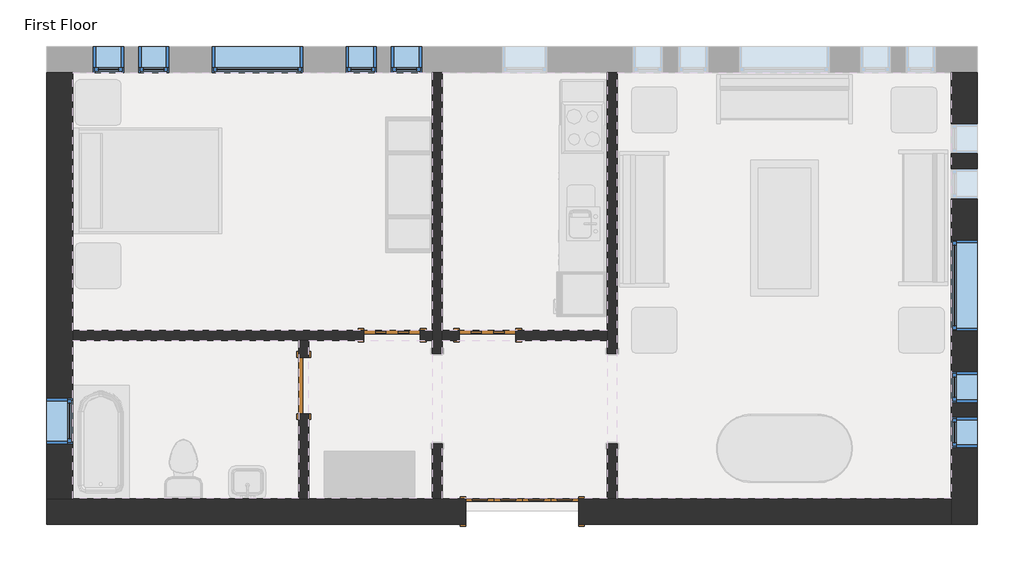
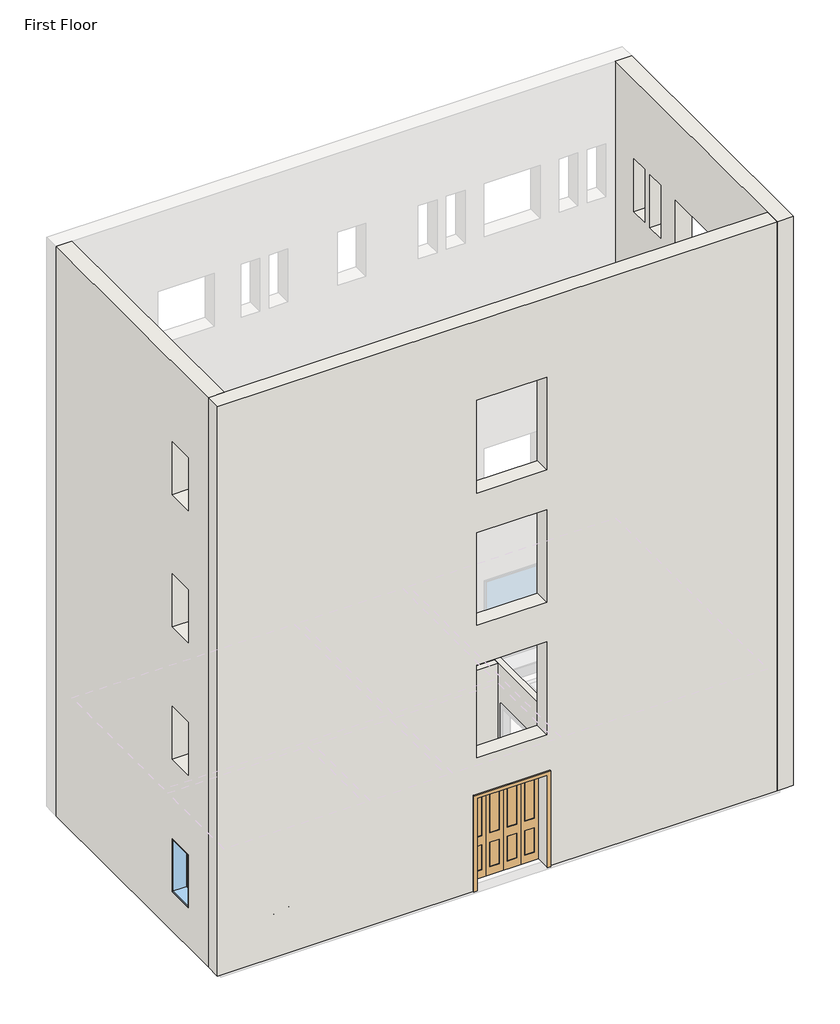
# One storey, part 1 of 2: 9 windows, 7 walls, 4 doors.
"""IFC4 building model written with IfcOpenShell, lengths in millimetres."""

from ifc_helpers import new_model, si_unit, frame, origin, place, context, project, spatial, polyline, outline, extrude, faceted_brep, transform, mapped, element, save
from components import m_bifold_4_panel_1525_x_2134mm_1ddae71f, m_single_decorative_2_0762_x_2134mm_0d0af7cb, m_single_decorative_2_0762_x_2134mm_2fe67c8e, m_single_flush_0762_x_2134mm_0d89e411, m_fixed_0406_x_1220mm_57fee329, m_fixed_0406_x_1220mm_85c28f40, m_fixed_0610_x_1220mm_2c28ef1d, m_fixed_1220_x_1220mm_e08ff7af

model = new_model("IFC4")

# Units and contexts
model_context = context("Model", 3, world=origin())
ifc_project = project(units=[si_unit("LENGTHUNIT", "METRE", prefix="MILLI")], contexts=[model_context])

# Site, building, storey
site = spatial("IfcSite", under=ifc_project)
building = spatial("IfcBuilding", under=site)
storey = spatial("IfcBuildingStorey", under=building, Name="First Floor", Elevation=0.0)

# Doors
placement = place(None, origin())
m_bifold_4_panel_1525_x_2134mm_shape = m_bifold_4_panel_1525_x_2134mm_1ddae71f(model_context)
element("IfcDoor", 1, ObjectType="M_Bifold-4 Panel : 1525 x 2134mm", at=placement, inside=storey, context=model_context, shape_type="MappedRepresentation", body=[
    mapped(m_bifold_4_panel_1525_x_2134mm_shape, transform((-8876.0916203, -3514.8811614, 0.0), x_axis=(1.0, 0.0, 0.0), y_axis=(0.0, 1.0, 0.0), z_axis=(0.0, 0.0, 1.0))),
])
m_single_decorative_2_0762_x_2134mm_shape = m_single_decorative_2_0762_x_2134mm_0d0af7cb(model_context)
element("IfcDoor", 2, ObjectType="M_Single-Decorative 2 : 0762 x 2134mm", at=placement, inside=storey, context=model_context, shape_type="MappedRepresentation", body=[
    mapped(m_single_decorative_2_0762_x_2134mm_shape, transform((-9342.3416203, -1138.1311614, 0.0), x_axis=(-1.0, 0.0, 0.0), y_axis=(0.0, -1.0, 0.0), z_axis=(0.0, 0.0, 1.0))),
])
m_single_decorative_2_0762_x_2134mm_2_shape = m_single_decorative_2_0762_x_2134mm_2fe67c8e(model_context)
element("IfcDoor", 3, ObjectType="M_Single-Decorative 2 : 0762 x 2134mm", at=placement, inside=storey, context=model_context, shape_type="MappedRepresentation", body=[
    mapped(m_single_decorative_2_0762_x_2134mm_2_shape, transform((-10629.0916203, -1138.1311614, 0.0), x_axis=(1.0, 0.0, 0.0), y_axis=(0.0, 1.0, 0.0), z_axis=(0.0, 0.0, 1.0))),
])
m_single_flush_0762_x_2134mm_shape = m_single_flush_0762_x_2134mm_0d89e411(model_context)
element("IfcDoor", 4, ObjectType="M_Single-Flush : 0762 x 2134mm", at=placement, inside=storey, context=model_context, shape_type="MappedRepresentation", body=[
    mapped(m_single_flush_0762_x_2134mm_shape, transform((-11819.5916203, -1815.8811614, 0.0), x_axis=(0.0, 1.0, 0.0), y_axis=(-1.0, 0.0, 0.0), z_axis=(0.0, 0.0, 1.0))),
])

# Walls
element("IfcWall", 5, ObjectType="Exterior - Brick on Mtl. Stud", at=placement, inside=storey, context=model_context, shape_type="Brep", body=[
    faceted_brep([(-3093.3416203, 2406.1188386, 0.0), (-3093.3416203, -3339.8811614, 0.0), (-3093.3416203, -3504.8811614, 0.0), (-3093.3416203, -3689.8811614, 0.0), (-3093.3416203, -3689.8811614, 13107.0), (-3093.3416203, -3339.8811614, 13107.0), (-3093.3416203, 2406.1188386, 13107.0), (-3093.3416203, -1076.8811614, 915.0), (-3093.3416203, 143.1188386, 915.0), (-3093.3416203, 143.1188386, 2135.0), (-3093.3416203, -1076.8811614, 2135.0), (-3093.3416203, 701.1188386, 915.0), (-3093.3416203, 1107.1188386, 915.0), (-3093.3416203, 1107.1188386, 2135.0), (-3093.3416203, 701.1188386, 2135.0), (-3093.3416203, 1311.1188386, 915.0), (-3093.3416203, 1717.1188386, 915.0), (-3093.3416203, 1717.1188386, 2135.0), (-3093.3416203, 1311.1188386, 2135.0), (-3093.3416203, -1634.8811614, 915.0), (-3093.3416203, -1634.8811614, 2135.0), (-3093.3416203, -2040.8811614, 2135.0), (-3093.3416203, -2040.8811614, 915.0), (-3093.3416203, -2244.8811614, 915.0), (-3093.3416203, -2244.8811614, 2135.0), (-3093.3416203, -2650.8811614, 2135.0), (-3093.3416203, -2650.8811614, 915.0), (-3093.3416203, -1634.8811614, 10059.0), (-3093.3416203, -1634.8811614, 11279.0), (-3093.3416203, -2040.8811614, 11279.0), (-3093.3416203, -2040.8811614, 10059.0), (-3093.3416203, -2244.8811614, 10059.0), (-3093.3416203, -2244.8811614, 11279.0), (-3093.3416203, -2650.8811614, 11279.0), (-3093.3416203, -2650.8811614, 10059.0), (-3093.3416203, 701.1188386, 10059.0), (-3093.3416203, 1107.1188386, 10059.0), (-3093.3416203, 1107.1188386, 11279.0), (-3093.3416203, 701.1188386, 11279.0), (-3093.3416203, 1311.1188386, 10059.0), (-3093.3416203, 1717.1188386, 10059.0), (-3093.3416203, 1717.1188386, 11279.0), (-3093.3416203, 1311.1188386, 11279.0), (-3093.3416203, -1076.8811614, 10059.0), (-3093.3416203, 143.1188386, 10059.0), (-3093.3416203, 143.1188386, 11279.0), (-3093.3416203, -1076.8811614, 11279.0), (-3093.3416203, -1634.8811614, 3963.0), (-3093.3416203, -1634.8811614, 5183.0), (-3093.3416203, -2040.8811614, 5183.0), (-3093.3416203, -2040.8811614, 3963.0), (-3093.3416203, -2244.8811614, 3963.0), (-3093.3416203, -2244.8811614, 5183.0), (-3093.3416203, -2650.8811614, 5183.0), (-3093.3416203, -2650.8811614, 3963.0), (-3093.3416203, 701.1188386, 3963.0), (-3093.3416203, 1107.1188386, 3963.0), (-3093.3416203, 1107.1188386, 5183.0), (-3093.3416203, 701.1188386, 5183.0), (-3093.3416203, 1311.1188386, 3963.0), (-3093.3416203, 1717.1188386, 3963.0), (-3093.3416203, 1717.1188386, 5183.0), (-3093.3416203, 1311.1188386, 5183.0), (-3093.3416203, -1076.8811614, 3963.0), (-3093.3416203, 143.1188386, 3963.0), (-3093.3416203, 143.1188386, 5183.0), (-3093.3416203, -1076.8811614, 5183.0), (-3093.3416203, -1634.8811614, 7011.0), (-3093.3416203, -1634.8811614, 8231.0), (-3093.3416203, -2040.8811614, 8231.0), (-3093.3416203, -2040.8811614, 7011.0), (-3093.3416203, -2244.8811614, 7011.0), (-3093.3416203, -2244.8811614, 8231.0), (-3093.3416203, -2650.8811614, 8231.0), (-3093.3416203, -2650.8811614, 7011.0), (-3093.3416203, 701.1188386, 7011.0), (-3093.3416203, 1107.1188386, 7011.0), (-3093.3416203, 1107.1188386, 8231.0), (-3093.3416203, 701.1188386, 8231.0), (-3093.3416203, 1311.1188386, 7011.0), (-3093.3416203, 1717.1188386, 7011.0), (-3093.3416203, 1717.1188386, 8231.0), (-3093.3416203, 1311.1188386, 8231.0), (-3093.3416203, -1076.8811614, 7011.0), (-3093.3416203, 143.1188386, 7011.0), (-3093.3416203, 143.1188386, 8231.0), (-3093.3416203, -1076.8811614, 8231.0), (-2743.3416203, 2406.1188386, 0.0), (-2743.3416203, 2406.1188386, 13107.0), (-2743.3416203, -3689.8811614, 13107.0), (-2743.3416203, -3689.8811614, 0.0), (-2743.3416203, -3504.8811614, 0.0), (-2743.3416203, -1076.8811614, 915.0), (-2743.3416203, -1076.8811614, 2135.0), (-2743.3416203, 143.1188386, 2135.0), (-2743.3416203, 143.1188386, 915.0), (-2743.3416203, 701.1188386, 915.0), (-2743.3416203, 701.1188386, 2135.0), (-2743.3416203, 1107.1188386, 2135.0), (-2743.3416203, 1107.1188386, 915.0), (-2743.3416203, 1311.1188386, 915.0), (-2743.3416203, 1311.1188386, 2135.0), (-2743.3416203, 1717.1188386, 2135.0), (-2743.3416203, 1717.1188386, 915.0), (-2743.3416203, -1634.8811614, 915.0), (-2743.3416203, -2040.8811614, 915.0), (-2743.3416203, -2040.8811614, 2135.0), (-2743.3416203, -1634.8811614, 2135.0), (-2743.3416203, -2244.8811614, 915.0), (-2743.3416203, -2650.8811614, 915.0), (-2743.3416203, -2650.8811614, 2135.0), (-2743.3416203, -2244.8811614, 2135.0), (-2743.3416203, -1634.8811614, 10059.0), (-2743.3416203, -2040.8811614, 10059.0), (-2743.3416203, -2040.8811614, 11279.0), (-2743.3416203, -1634.8811614, 11279.0), (-2743.3416203, -2244.8811614, 10059.0), (-2743.3416203, -2650.8811614, 10059.0), (-2743.3416203, -2650.8811614, 11279.0), (-2743.3416203, -2244.8811614, 11279.0), (-2743.3416203, 701.1188386, 10059.0), (-2743.3416203, 701.1188386, 11279.0), (-2743.3416203, 1107.1188386, 11279.0), (-2743.3416203, 1107.1188386, 10059.0), (-2743.3416203, 1311.1188386, 10059.0), (-2743.3416203, 1311.1188386, 11279.0), (-2743.3416203, 1717.1188386, 11279.0), (-2743.3416203, 1717.1188386, 10059.0), (-2743.3416203, -1076.8811614, 10059.0), (-2743.3416203, -1076.8811614, 11279.0), (-2743.3416203, 143.1188386, 11279.0), (-2743.3416203, 143.1188386, 10059.0), (-2743.3416203, -1634.8811614, 3963.0), (-2743.3416203, -2040.8811614, 3963.0), (-2743.3416203, -2040.8811614, 5183.0), (-2743.3416203, -1634.8811614, 5183.0), (-2743.3416203, -2244.8811614, 3963.0), (-2743.3416203, -2650.8811614, 3963.0), (-2743.3416203, -2650.8811614, 5183.0), (-2743.3416203, -2244.8811614, 5183.0), (-2743.3416203, 701.1188386, 3963.0), (-2743.3416203, 701.1188386, 5183.0), (-2743.3416203, 1107.1188386, 5183.0), (-2743.3416203, 1107.1188386, 3963.0), (-2743.3416203, 1311.1188386, 3963.0), (-2743.3416203, 1311.1188386, 5183.0), (-2743.3416203, 1717.1188386, 5183.0), (-2743.3416203, 1717.1188386, 3963.0), (-2743.3416203, -1076.8811614, 3963.0), (-2743.3416203, -1076.8811614, 5183.0), (-2743.3416203, 143.1188386, 5183.0), (-2743.3416203, 143.1188386, 3963.0), (-2743.3416203, -1634.8811614, 7011.0), (-2743.3416203, -2040.8811614, 7011.0), (-2743.3416203, -2040.8811614, 8231.0), (-2743.3416203, -1634.8811614, 8231.0), (-2743.3416203, -2244.8811614, 7011.0), (-2743.3416203, -2650.8811614, 7011.0), (-2743.3416203, -2650.8811614, 8231.0), (-2743.3416203, -2244.8811614, 8231.0), (-2743.3416203, 701.1188386, 7011.0), (-2743.3416203, 701.1188386, 8231.0), (-2743.3416203, 1107.1188386, 8231.0), (-2743.3416203, 1107.1188386, 7011.0), (-2743.3416203, 1311.1188386, 7011.0), (-2743.3416203, 1311.1188386, 8231.0), (-2743.3416203, 1717.1188386, 8231.0), (-2743.3416203, 1717.1188386, 7011.0), (-2743.3416203, -1076.8811614, 7011.0), (-2743.3416203, -1076.8811614, 8231.0), (-2743.3416203, 143.1188386, 8231.0), (-2743.3416203, 143.1188386, 7011.0), (-2928.3416203, 2406.1188386, 0.0), (-2928.3416203, -3689.8811614, 0.0), (-2928.3416203, -3504.8811614, 0.0)], [[[0, 1, 2, 3, 4, 5, 6], [7, 8, 9, 10], [11, 12, 13, 14], [15, 16, 17, 18], [19, 20, 21, 22], [23, 24, 25, 26], [27, 28, 29, 30], [31, 32, 33, 34], [35, 36, 37, 38], [39, 40, 41, 42], [43, 44, 45, 46], [47, 48, 49, 50], [51, 52, 53, 54], [55, 56, 57, 58], [59, 60, 61, 62], [63, 64, 65, 66], [67, 68, 69, 70], [71, 72, 73, 74], [75, 76, 77, 78], [79, 80, 81, 82], [83, 84, 85, 86]], [[87, 88, 89, 90, 91], [92, 93, 94, 95], [96, 97, 98, 99], [100, 101, 102, 103], [104, 105, 106, 107], [108, 109, 110, 111], [112, 113, 114, 115], [116, 117, 118, 119], [120, 121, 122, 123], [124, 125, 126, 127], [128, 129, 130, 131], [132, 133, 134, 135], [136, 137, 138, 139], [140, 141, 142, 143], [144, 145, 146, 147], [148, 149, 150, 151], [152, 153, 154, 155], [156, 157, 158, 159], [160, 161, 162, 163], [164, 165, 166, 167], [168, 169, 170, 171]], [[6, 5, 4, 89, 88]], [[0, 6, 88, 87, 172]], [[4, 3, 173, 90, 89]], [[93, 92, 7, 10]], [[94, 93, 10, 9]], [[95, 94, 9, 8]], [[92, 95, 8, 7]], [[97, 96, 11, 14]], [[98, 97, 14, 13]], [[99, 98, 13, 12]], [[96, 99, 12, 11]], [[101, 100, 15, 18]], [[102, 101, 18, 17]], [[103, 102, 17, 16]], [[100, 103, 16, 15]], [[20, 19, 104, 107]], [[21, 20, 107, 106]], [[22, 21, 106, 105]], [[19, 22, 105, 104]], [[24, 23, 108, 111]], [[25, 24, 111, 110]], [[26, 25, 110, 109]], [[23, 26, 109, 108]], [[172, 87, 91, 174]], [[3, 2, 174, 173]], [[174, 91, 90, 173]], [[2, 1, 0, 172, 174]], [[28, 27, 112, 115]], [[29, 28, 115, 114]], [[30, 29, 114, 113]], [[27, 30, 113, 112]], [[32, 31, 116, 119]], [[33, 32, 119, 118]], [[34, 33, 118, 117]], [[31, 34, 117, 116]], [[121, 120, 35, 38]], [[122, 121, 38, 37]], [[123, 122, 37, 36]], [[120, 123, 36, 35]], [[125, 124, 39, 42]], [[126, 125, 42, 41]], [[127, 126, 41, 40]], [[124, 127, 40, 39]], [[129, 128, 43, 46]], [[130, 129, 46, 45]], [[131, 130, 45, 44]], [[128, 131, 44, 43]], [[48, 47, 132, 135]], [[49, 48, 135, 134]], [[50, 49, 134, 133]], [[47, 50, 133, 132]], [[52, 51, 136, 139]], [[53, 52, 139, 138]], [[54, 53, 138, 137]], [[51, 54, 137, 136]], [[141, 140, 55, 58]], [[142, 141, 58, 57]], [[143, 142, 57, 56]], [[140, 143, 56, 55]], [[145, 144, 59, 62]], [[146, 145, 62, 61]], [[147, 146, 61, 60]], [[144, 147, 60, 59]], [[149, 148, 63, 66]], [[150, 149, 66, 65]], [[151, 150, 65, 64]], [[148, 151, 64, 63]], [[68, 67, 152, 155]], [[69, 68, 155, 154]], [[70, 69, 154, 153]], [[67, 70, 153, 152]], [[72, 71, 156, 159]], [[73, 72, 159, 158]], [[74, 73, 158, 157]], [[71, 74, 157, 156]], [[161, 160, 75, 78]], [[162, 161, 78, 77]], [[163, 162, 77, 76]], [[160, 163, 76, 75]], [[165, 164, 79, 82]], [[166, 165, 82, 81]], [[167, 166, 81, 80]], [[164, 167, 80, 79]], [[169, 168, 83, 86]], [[170, 169, 86, 85]], [[171, 170, 85, 84]], [[168, 171, 84, 83]]]),
])
element("IfcWall", 6, ObjectType="Exterior - Brick on Mtl. Stud", at=placement, inside=storey, context=model_context, shape_type="Brep", body=[
    faceted_brep([(-15285.3416203, -3339.8811614, 13107.0), (-14935.3416203, -3339.8811614, 13107.0), (-3093.3416203, -3339.8811614, 13107.0), (-3093.3416203, -3339.8811614, 0.0), (-7597.5916203, -3339.8811614, 0.0), (-7733.0916203, -3339.8811614, 0.0), (-8113.5916203, -3339.8811614, 0.0), (-8113.5916203, -3339.8811614, 2134.0), (-9638.5916203, -3339.8811614, 2134.0), (-9638.5916203, -3339.8811614, 0.0), (-9951.3416203, -3339.8811614, 0.0), (-10086.8416203, -3339.8811614, 0.0), (-11751.8416203, -3339.8811614, 0.0), (-11887.3416203, -3339.8811614, 0.0), (-14935.3416203, -3339.8811614, 0.0), (-15285.3416203, -3339.8811614, 0.0), (-8113.5916203, -3339.8811614, 9144.0), (-8113.5916203, -3339.8811614, 11278.0), (-9638.5916203, -3339.8811614, 11278.0), (-9638.5916203, -3339.8811614, 9144.0), (-8113.5916203, -3339.8811614, 3048.0), (-8113.5916203, -3339.8811614, 5182.0), (-9638.5916203, -3339.8811614, 5182.0), (-9638.5916203, -3339.8811614, 3048.0), (-8113.5916203, -3339.8811614, 6096.0), (-8113.5916203, -3339.8811614, 8230.0), (-9638.5916203, -3339.8811614, 8230.0), (-9638.5916203, -3339.8811614, 6096.0), (-3093.3416203, -3689.8811614, 13107.0), (-15285.3416203, -3689.8811614, 13107.0), (-15285.3416203, -3689.8811614, 0.0), (-9638.5916203, -3689.8811614, 0.0), (-9638.5916203, -3689.8811614, 2134.0), (-8113.5916203, -3689.8811614, 2134.0), (-8113.5916203, -3689.8811614, 0.0), (-3093.3416203, -3689.8811614, 0.0), (-8113.5916203, -3689.8811614, 9144.0), (-9638.5916203, -3689.8811614, 9144.0), (-9638.5916203, -3689.8811614, 11278.0), (-8113.5916203, -3689.8811614, 11278.0), (-8113.5916203, -3689.8811614, 3048.0), (-9638.5916203, -3689.8811614, 3048.0), (-9638.5916203, -3689.8811614, 5182.0), (-8113.5916203, -3689.8811614, 5182.0), (-8113.5916203, -3689.8811614, 6096.0), (-9638.5916203, -3689.8811614, 6096.0), (-9638.5916203, -3689.8811614, 8230.0), (-8113.5916203, -3689.8811614, 8230.0)], [[[0, 1, 2, 3, 4, 5, 6, 7, 8, 9, 10, 11, 12, 13, 14, 15], [16, 17, 18, 19], [20, 21, 22, 23], [24, 25, 26, 27]], [[28, 29, 30, 31, 32, 33, 34, 35], [36, 37, 38, 39], [40, 41, 42, 43], [44, 45, 46, 47]], [[3, 35, 34, 6, 5, 4]], [[30, 15, 14, 13, 12, 11, 10, 9, 31]], [[2, 1, 0, 29, 28]], [[3, 2, 28, 35]], [[0, 15, 30, 29]], [[33, 7, 6, 34]], [[7, 33, 32, 8]], [[8, 32, 31, 9]], [[17, 16, 36, 39]], [[18, 17, 39, 38]], [[19, 18, 38, 37]], [[16, 19, 37, 36]], [[21, 20, 40, 43]], [[22, 21, 43, 42]], [[23, 22, 42, 41]], [[20, 23, 41, 40]], [[25, 24, 44, 47]], [[26, 25, 47, 46]], [[27, 26, 46, 45]], [[24, 27, 45, 44]]]),
])
element("IfcWall", 7, ObjectType="Exterior - Brick on Mtl. Stud", at=placement, inside=storey, context=model_context, shape_type="Brep", body=[
    faceted_brep([(-14935.3416203, -3339.8811614, 0.0), (-14935.3416203, -1205.8811614, 0.0), (-14935.3416203, -1070.3811614, 0.0), (-14935.3416203, 2406.1188386, 0.0), (-14935.3416203, 2406.1188386, 13107.0), (-14935.3416203, -3339.8811614, 13107.0), (-14935.3416203, -1989.8811614, 915.0), (-14935.3416203, -2599.8811614, 915.0), (-14935.3416203, -2599.8811614, 2135.0), (-14935.3416203, -1989.8811614, 2135.0), (-14935.3416203, -1989.8811614, 10059.0), (-14935.3416203, -2599.8811614, 10059.0), (-14935.3416203, -2599.8811614, 11279.0), (-14935.3416203, -1989.8811614, 11279.0), (-14935.3416203, -1989.8811614, 3963.0), (-14935.3416203, -2599.8811614, 3963.0), (-14935.3416203, -2599.8811614, 5183.0), (-14935.3416203, -1989.8811614, 5183.0), (-14935.3416203, -1989.8811614, 7011.0), (-14935.3416203, -2599.8811614, 7011.0), (-14935.3416203, -2599.8811614, 8231.0), (-14935.3416203, -1989.8811614, 8231.0), (-15285.3416203, -3339.8811614, 0.0), (-15285.3416203, -3339.8811614, 13107.0), (-15285.3416203, 2406.1188386, 13107.0), (-15285.3416203, 2406.1188386, 0.0), (-15285.3416203, -1989.8811614, 915.0), (-15285.3416203, -1989.8811614, 2135.0), (-15285.3416203, -2599.8811614, 2135.0), (-15285.3416203, -2599.8811614, 915.0), (-15285.3416203, -1989.8811614, 10059.0), (-15285.3416203, -1989.8811614, 11279.0), (-15285.3416203, -2599.8811614, 11279.0), (-15285.3416203, -2599.8811614, 10059.0), (-15285.3416203, -1989.8811614, 3963.0), (-15285.3416203, -1989.8811614, 5183.0), (-15285.3416203, -2599.8811614, 5183.0), (-15285.3416203, -2599.8811614, 3963.0), (-15285.3416203, -1989.8811614, 7011.0), (-15285.3416203, -1989.8811614, 8231.0), (-15285.3416203, -2599.8811614, 8231.0), (-15285.3416203, -2599.8811614, 7011.0), (-15100.3416203, -3339.8811614, 0.0), (-15100.3416203, 2406.1188386, 0.0)], [[[0, 1, 2, 3, 4, 5], [6, 7, 8, 9], [10, 11, 12, 13], [14, 15, 16, 17], [18, 19, 20, 21]], [[22, 23, 24, 25], [26, 27, 28, 29], [30, 31, 32, 33], [34, 35, 36, 37], [38, 39, 40, 41]], [[5, 4, 24, 23]], [[0, 5, 23, 22, 42]], [[4, 3, 43, 25, 24]], [[27, 26, 6, 9]], [[28, 27, 9, 8]], [[29, 28, 8, 7]], [[26, 29, 7, 6]], [[42, 22, 25, 43]], [[3, 2, 1, 0, 42, 43]], [[31, 30, 10, 13]], [[32, 31, 13, 12]], [[33, 32, 12, 11]], [[30, 33, 11, 10]], [[35, 34, 14, 17]], [[36, 35, 17, 16]], [[37, 36, 16, 15]], [[34, 37, 15, 14]], [[39, 38, 18, 21]], [[40, 39, 21, 20]], [[41, 40, 20, 19]], [[38, 41, 19, 18]]]),
])
element("IfcWall", 8, ObjectType="Interior - 135mm Partition (2-hr)", at=placement, inside=storey, context=model_context, shape_type="Brep", body=[
    faceted_brep([(-7733.0916203, 2406.1188386, 0.0), (-7733.0916203, -1070.3811614, 0.0), (-7733.0916203, -1205.8811614, 0.0), (-7733.0916203, -1380.8811614, 0.0), (-7733.0916203, -1380.8811614, 2134.0), (-7733.0916203, -2600.8811614, 2134.0), (-7733.0916203, -2600.8811614, 0.0), (-7733.0916203, -3339.8811614, 0.0), (-7733.0916203, -3339.8811614, 3048.0), (-7733.0916203, -1205.8811614, 3048.0), (-7733.0916203, -1070.3811614, 3048.0), (-7733.0916203, 2406.1188386, 3048.0), (-7597.5916203, -1380.8811614, 2134.0), (-7597.5916203, -1380.8811614, 0.0), (-7597.5916203, 2406.1188386, 0.0), (-7597.5916203, 2406.1188386, 3048.0), (-7597.5916203, -3339.8811614, 3048.0), (-7597.5916203, -3339.8811614, 0.0), (-7597.5916203, -2600.8811614, 0.0), (-7597.5916203, -2600.8811614, 2134.0)], [[[0, 1, 2, 3, 4, 5, 6, 7, 8, 9, 10, 11]], [[12, 13, 14, 15, 16, 17, 18, 19]], [[18, 17, 7, 6]], [[14, 13, 3, 2, 1, 0]], [[11, 10, 9, 8, 16, 15]], [[0, 11, 15, 14]], [[8, 7, 17, 16]], [[6, 5, 19, 18]], [[4, 3, 13, 12]], [[5, 4, 12, 19]]]),
])
element("IfcWall", 9, ObjectType="Interior - 135mm Partition (2-hr)", at=placement, inside=storey, context=model_context, shape_type="Brep", body=[
    faceted_brep([(-10086.8416203, -2600.8811614, 2134.0), (-10086.8416203, -2600.8811614, 0.0), (-10086.8416203, -3339.8811614, 0.0), (-10086.8416203, -3339.8811614, 3048.0), (-10086.8416203, -1205.8811614, 3048.0), (-10086.8416203, -1070.3811614, 3048.0), (-10086.8416203, 2406.1188386, 3048.0), (-10086.8416203, 2406.1188386, 0.0), (-10086.8416203, -1070.3811614, 0.0), (-10086.8416203, -1205.8811614, 0.0), (-10086.8416203, -1380.8811614, 0.0), (-10086.8416203, -1380.8811614, 2134.0), (-9951.3416203, -3339.8811614, 0.0), (-9951.3416203, -2600.8811614, 0.0), (-9951.3416203, -2600.8811614, 2134.0), (-9951.3416203, -1380.8811614, 2134.0), (-9951.3416203, -1380.8811614, 0.0), (-9951.3416203, -1205.8811614, 0.0), (-9951.3416203, -1070.3811614, 0.0), (-9951.3416203, 2406.1188386, 0.0), (-9951.3416203, 2406.1188386, 3048.0), (-9951.3416203, -1070.3811614, 3048.0), (-9951.3416203, -1205.8811614, 3048.0), (-9951.3416203, -3339.8811614, 3048.0)], [[[0, 1, 2, 3, 4, 5, 6, 7, 8, 9, 10, 11]], [[12, 13, 14, 15, 16, 17, 18, 19, 20, 21, 22, 23]], [[2, 1, 13, 12]], [[10, 9, 8, 7, 19, 18, 17, 16]], [[6, 5, 4, 3, 23, 22, 21, 20]], [[7, 6, 20, 19]], [[3, 2, 12, 23]], [[16, 15, 11, 10]], [[14, 13, 1, 0]], [[15, 14, 0, 11]]]),
])
element("IfcWall", 10, ObjectType="Interior - 135mm Partition (2-hr)", at=placement, inside=storey, context=model_context, shape_type="Brep", body=[
    faceted_brep([(-14935.3416203, -1205.8811614, 3048.0), (-14935.3416203, -1205.8811614, 0.0), (-11887.3416203, -1205.8811614, 0.0), (-11751.8416203, -1205.8811614, 0.0), (-11010.0916203, -1205.8811614, 0.0), (-11010.0916203, -1205.8811614, 2134.0), (-10248.0916203, -1205.8811614, 2134.0), (-10248.0916203, -1205.8811614, 0.0), (-10086.8416203, -1205.8811614, 0.0), (-10086.8416203, -1205.8811614, 3048.0), (-11751.8416203, -1205.8811614, 3048.0), (-11887.3416203, -1205.8811614, 3048.0), (-14935.3416203, -1070.3811614, 0.0), (-14935.3416203, -1070.3811614, 3048.0), (-10086.8416203, -1070.3811614, 3048.0), (-10086.8416203, -1070.3811614, 0.0), (-10248.0916203, -1070.3811614, 0.0), (-10248.0916203, -1070.3811614, 2134.0), (-11010.0916203, -1070.3811614, 2134.0), (-11010.0916203, -1070.3811614, 0.0)], [[[0, 1, 2, 3, 4, 5, 6, 7, 8, 9, 10, 11]], [[12, 13, 14, 15, 16, 17, 18, 19]], [[1, 12, 19, 4, 3, 2]], [[7, 16, 15, 8]], [[13, 0, 11, 10, 9, 14]], [[1, 0, 13, 12]], [[9, 8, 15, 14]], [[17, 16, 7, 6]], [[18, 17, 6, 5]], [[19, 18, 5, 4]]]),
    faceted_brep([(-7733.0916203, -1205.8811614, 0.0), (-7733.0916203, -1205.8811614, 3048.0), (-9951.3416203, -1205.8811614, 3048.0), (-9951.3416203, -1205.8811614, 0.0), (-9723.3416203, -1205.8811614, 0.0), (-9723.3416203, -1205.8811614, 2134.0), (-8961.3416203, -1205.8811614, 2134.0), (-8961.3416203, -1205.8811614, 0.0), (-7733.0916203, -1070.3811614, 3048.0), (-7733.0916203, -1070.3811614, 0.0), (-8961.3416203, -1070.3811614, 0.0), (-8961.3416203, -1070.3811614, 2134.0), (-9723.3416203, -1070.3811614, 2134.0), (-9723.3416203, -1070.3811614, 0.0), (-9951.3416203, -1070.3811614, 0.0), (-9951.3416203, -1070.3811614, 3048.0)], [[[0, 1, 2, 3, 4, 5, 6, 7]], [[8, 9, 10, 11, 12, 13, 14, 15]], [[9, 0, 7, 10]], [[13, 4, 3, 14]], [[1, 8, 15, 2]], [[1, 0, 9, 8]], [[3, 2, 15, 14]], [[5, 4, 13, 12]], [[6, 5, 12, 11]], [[7, 6, 11, 10]]]),
])
element("IfcWall", 11, ObjectType="Interior - 135mm Partition (2-hr)", at=placement, inside=storey, context=model_context, shape_type="SweptSolid", body=[
    extrude(outline(polyline([(-1205.8811614, 0.0), (-1434.8811614, 0.0), (-1434.8811614, 2134.0), (-2196.8811614, 2134.0), (-2196.8811614, 0.0), (-3339.8811614, 0.0), (-3339.8811614, 3048.0), (-1205.8811614, 3048.0), (-1205.8811614, 0.0)])), frame((-11887.3416203, 0.0, 0.0), z_axis=(1.0, 0.0, 0.0), x_axis=(0.0, 1.0, 0.0)), (0.0, 0.0, 1.0), 135.5),
])

# Windows
m_fixed_0406_x_1220mm_shape = m_fixed_0406_x_1220mm_57fee329(model_context)
element("IfcWindow", 12, ObjectType="M_Fixed : 0406 x 1220mm", at=placement, inside=storey, context=model_context, shape_type="MappedRepresentation", body=[
    mapped(m_fixed_0406_x_1220mm_shape, transform((-14450.3416203, 2594.1188386, 0.0), x_axis=(-1.0, 0.0, 0.0), y_axis=(0.0, -1.0, 0.0), z_axis=(0.0, 0.0, 1.0))),
])
element("IfcWindow", 13, ObjectType="M_Fixed : 0406 x 1220mm", at=placement, inside=storey, context=model_context, shape_type="MappedRepresentation", body=[
    mapped(m_fixed_0406_x_1220mm_shape, transform((-13840.3416203, 2594.1188386, 0.0), x_axis=(-1.0, 0.0, 0.0), y_axis=(0.0, -1.0, 0.0), z_axis=(0.0, 0.0, 1.0))),
])
m_fixed_0406_x_1220mm_2_shape = m_fixed_0406_x_1220mm_85c28f40(model_context)
element("IfcWindow", 14, ObjectType="M_Fixed : 0406 x 1220mm", at=placement, inside=storey, context=model_context, shape_type="MappedRepresentation", body=[
    mapped(m_fixed_0406_x_1220mm_2_shape, transform((-10436.3416203, 2594.1188386, 0.0), x_axis=(1.0, 0.0, 0.0), y_axis=(0.0, 1.0, 0.0), z_axis=(0.0, 0.0, 1.0))),
])
element("IfcWindow", 15, ObjectType="M_Fixed : 0406 x 1220mm", at=placement, inside=storey, context=model_context, shape_type="MappedRepresentation", body=[
    mapped(m_fixed_0406_x_1220mm_2_shape, transform((-11046.3416203, 2594.1188386, 0.0), x_axis=(1.0, 0.0, 0.0), y_axis=(0.0, 1.0, 0.0), z_axis=(0.0, 0.0, 1.0))),
])
element("IfcWindow", 16, ObjectType="M_Fixed : 0406 x 1220mm", at=placement, inside=storey, context=model_context, shape_type="MappedRepresentation", body=[
    mapped(m_fixed_0406_x_1220mm_2_shape, transform((-2905.3416203, -2447.8811614, 0.0), x_axis=(0.0, -1.0, 0.0), y_axis=(1.0, 0.0, 0.0), z_axis=(0.0, 0.0, 1.0))),
])
element("IfcWindow", 17, ObjectType="M_Fixed : 0406 x 1220mm", at=placement, inside=storey, context=model_context, shape_type="MappedRepresentation", body=[
    mapped(m_fixed_0406_x_1220mm_2_shape, transform((-2905.3416203, -1837.8811614, 0.0), x_axis=(0.0, -1.0, 0.0), y_axis=(1.0, 0.0, 0.0), z_axis=(0.0, 0.0, 1.0))),
])
m_fixed_0610_x_1220mm_shape = m_fixed_0610_x_1220mm_2c28ef1d(model_context)
element("IfcWindow", 18, ObjectType="M_Fixed : 0610 x 1220mm", at=placement, inside=storey, context=model_context, shape_type="MappedRepresentation", body=[
    mapped(m_fixed_0610_x_1220mm_shape, transform((-15123.3416203, -2294.8811614, 0.0), x_axis=(0.0, -1.0, 0.0), y_axis=(1.0, 0.0, 0.0), z_axis=(0.0, 0.0, 1.0))),
])
m_fixed_1220_x_1220mm_shape = m_fixed_1220_x_1220mm_e08ff7af(model_context)
element("IfcWindow", 19, ObjectType="M_Fixed : 1220 x 1220mm", at=placement, inside=storey, context=model_context, shape_type="MappedRepresentation", body=[
    mapped(m_fixed_1220_x_1220mm_shape, transform((-12443.3416203, 2594.1188386, 0.0), x_axis=(-1.0, 0.0, 0.0), y_axis=(0.0, -1.0, 0.0), z_axis=(0.0, 0.0, 1.0))),
])
element("IfcWindow", 20, ObjectType="M_Fixed : 1220 x 1220mm", at=placement, inside=storey, context=model_context, shape_type="MappedRepresentation", body=[
    mapped(m_fixed_1220_x_1220mm_shape, transform((-2905.3416203, -466.8811614, 0.0), x_axis=(0.0, 1.0, 0.0), y_axis=(-1.0, 0.0, 0.0), z_axis=(0.0, 0.0, 1.0))),
])

save(model, "model.ifc")
